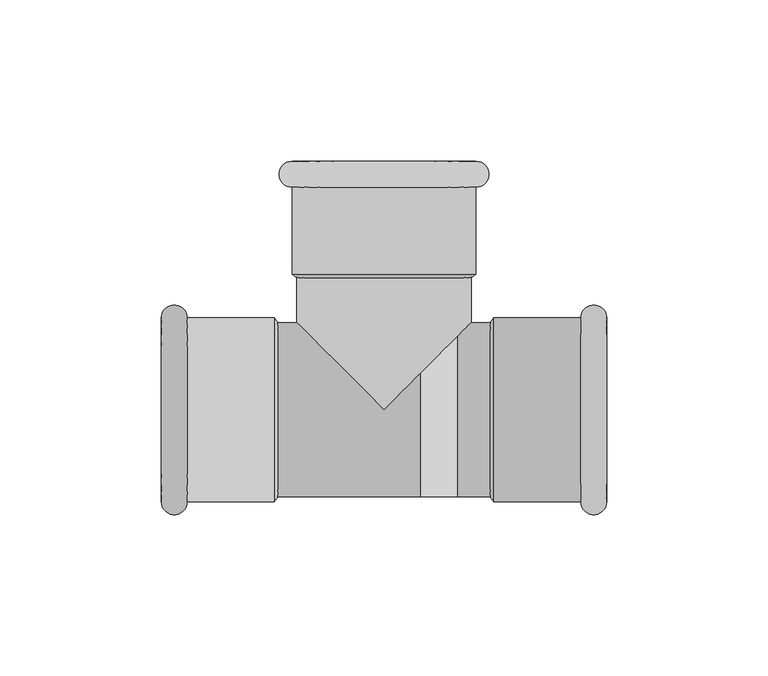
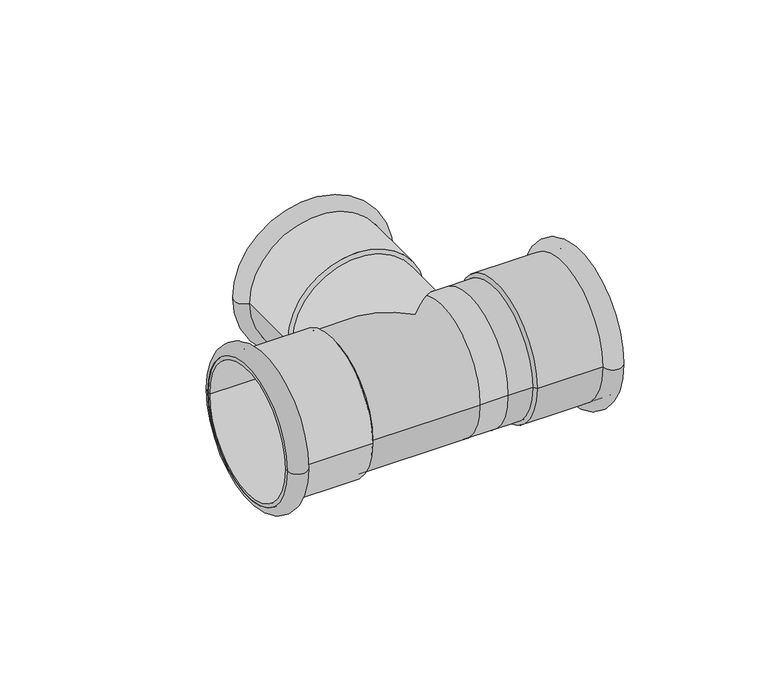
"""IFC4 building model written with IfcOpenShell, lengths in millimetres: pipe fitting geometry, NLRS_50_PIF_UN_Geberit Mapress Therm T-stuk : DN12-100 / d15-108 - OD."""

from ifc_helpers import new_model, si_unit, point, frame, origin, place, context, project, spatial, polyline, circle_curve, ellipse_curve, trimmed, source, transform, mapped, element, save
from ifc_brep_helpers import plane_surface, cylinder_surface, revolved_surface, advanced_brep


def pipe_fitting_14417a9a(model_context):
    return source(origin(), model_context, "Body", "AdvancedBrep", [
        advanced_brep(
        [(28.5, 77.0, 0.0), (-28.5, 77.0, 0.0), (-28.5, 69.0, 0.0), (28.5, 69.0, 0.0)],
        [
            (0, 1, circle_curve(frame((0.0, 77.0, 0.0), z_axis=(0.0, 1.0, 0.0), x_axis=(-1.0, 0.0, 0.0)), 28.5)),
            (1, 2),
            (2, 3, circle_curve(frame((0.0, 69.0, 0.0), z_axis=(0.0, -1.0, 0.0), x_axis=(-1.0, 0.0, 0.0)), 28.5)),
            (3, 0),
            (1, 0, circle_curve(frame((0.0, 77.0, 0.0), z_axis=(0.0, 1.0, 0.0), x_axis=(-1.0, 0.0, 0.0)), 28.5)),
            (3, 2, circle_curve(frame((0.0, 69.0, 0.0), z_axis=(0.0, -1.0, 0.0), x_axis=(-1.0, 0.0, 0.0)), 28.5)),
            (2, 1, circle_curve(frame((-28.5, 73.0, 0.0), z_axis=(0.0, 0.0, -1.0), x_axis=(0.0, 1.0, 0.0)), 4.0)),
            (0, 3, circle_curve(frame((28.5, 73.0, 0.0), z_axis=(0.0, 0.0, -1.0), x_axis=(0.0, 1.0, 0.0)), 4.0)),
        ],
        [
            revolved_surface(polyline([(-28.5, 69.0, 0.0), (-28.5, 77.0, 0.0)]), (0.0, 42.0, 0.0), (0.0, -1.0, 0.0)),
            revolved_surface(trimmed(ellipse_curve(frame((-28.5, 73.0, 0.0), z_axis=(0.0, 0.0, 1.0), x_axis=(0.0, 1.0, 0.0)), 4.0, 4.0), [point((-28.5, 77.0, 0.0))], [point((-28.5, 69.0, 0.0))], True, "CARTESIAN"), (0.0, 42.0, 0.0), (0.0, -1.0, 0.0)),
        ],
        [
            (0, [[1, 2, 3, 4]]),
            (0, [[5, -4, 6, -2]]),
            (1, [[-3, 7, -1, 8]]),
            (1, [[-6, -8, -5, -7]]),
        ],
    ),
        advanced_brep(
        [(27.0, 77.0, 0.0), (-27.0, 77.0, 0.0), (-27.0, 41.0, 0.0), (27.0, 41.0, 0.0), (28.5, 77.0, 0.0), (-28.5, 77.0, 0.0), (28.5, 42.0, 0.0), (-28.5, 42.0, 0.0)],
        [
            (0, 1, circle_curve(frame((0.0, 77.0, 0.0), z_axis=(0.0, 1.0, 0.0), x_axis=(-1.0, 0.0, 0.0)), 27.0)),
            (1, 2),
            (2, 3, circle_curve(frame((0.0, 41.0, 0.0), z_axis=(0.0, -1.0, 0.0), x_axis=(-1.0, 0.0, 0.0)), 27.0)),
            (3, 0),
            (1, 0, circle_curve(frame((0.0, 77.0, 0.0), z_axis=(0.0, 1.0, 0.0), x_axis=(-1.0, 0.0, 0.0)), 27.0)),
            (3, 2, circle_curve(frame((0.0, 41.0, 0.0), z_axis=(0.0, -1.0, 0.0), x_axis=(-1.0, 0.0, 0.0)), 27.0)),
            (4, 5, circle_curve(frame((0.0, 77.0, 0.0), z_axis=(0.0, 1.0, 0.0), x_axis=(-1.0, 0.0, 0.0)), 28.5)),
            (5, 1),
            (0, 4),
            (5, 4, circle_curve(frame((0.0, 77.0, 0.0), z_axis=(0.0, 1.0, 0.0), x_axis=(-1.0, 0.0, 0.0)), 28.5)),
            (6, 7, circle_curve(frame((0.0, 42.0, 0.0), z_axis=(0.0, 1.0, 0.0), x_axis=(-1.0, 0.0, 0.0)), 28.5)),
            (7, 5),
            (4, 6),
            (7, 6, circle_curve(frame((0.0, 42.0, 0.0), z_axis=(0.0, 1.0, 0.0), x_axis=(-1.0, 0.0, 0.0)), 28.5)),
            (2, 7),
            (6, 3),
        ],
        [
            revolved_surface(polyline([(-27.0, 41.0, 0.0), (-27.0, 77.0, 0.0)]), (0.0, 42.0, 0.0), (0.0, -1.0, 0.0)),
            plane_surface(frame((0.0, 77.0, 0.0), z_axis=(0.0, 1.0, 0.0), x_axis=(-1.0, 0.0, 0.0))),
            cylinder_surface(frame((0.0, 42.0, 0.0), z_axis=(0.0, -1.0, 0.0), x_axis=(-1.0, 0.0, 0.0)), 28.5),
            revolved_surface(polyline([(-28.5, 42.0, 0.0), (-27.0, 41.0, 0.0)]), (0.0, 42.0, 0.0), (0.0, -1.0, 0.0)),
        ],
        [
            (0, [[1, 2, 3, 4]]),
            (0, [[5, -4, 6, -2]]),
            (1, [[7, 8, -1, 9]]),
            (1, [[10, -9, -5, -8]]),
            (2, [[11, 12, -7, 13]]),
            (2, [[14, -13, -10, -12]]),
            (3, [[-3, 15, -11, 16]]),
            (3, [[-6, -16, -14, -15]]),
        ],
    ),
        advanced_brep(
        [(69.0, -28.5, 0.0), (69.0, 28.5, 0.0), (61.0, 28.5, 0.0), (61.0, -28.5, 0.0)],
        [
            (0, 1, circle_curve(frame((69.0, 0.0, 0.0), z_axis=(1.0, 0.0, 0.0), x_axis=(0.0, 1.0, 0.0)), 28.5)),
            (1, 2),
            (2, 3, circle_curve(frame((61.0, 0.0, 0.0), z_axis=(-1.0, 0.0, 0.0), x_axis=(0.0, 1.0, 0.0)), 28.5)),
            (3, 0),
            (1, 0, circle_curve(frame((69.0, 0.0, 0.0), z_axis=(1.0, 0.0, 0.0), x_axis=(0.0, 1.0, 0.0)), 28.5)),
            (3, 2, circle_curve(frame((61.0, 0.0, 0.0), z_axis=(-1.0, 0.0, 0.0), x_axis=(0.0, 1.0, 0.0)), 28.5)),
            (2, 1, circle_curve(frame((65.0, 28.5, 0.0), z_axis=(0.0, 0.0, -1.0), x_axis=(1.0, 0.0, 0.0)), 4.0)),
            (0, 3, circle_curve(frame((65.0, -28.5, 0.0), z_axis=(0.0, 0.0, -1.0), x_axis=(1.0, 0.0, 0.0)), 4.0)),
        ],
        [
            revolved_surface(polyline([(61.0, 28.5, 0.0), (69.0, 28.5, 0.0)]), (34.0, 0.0, 0.0), (-1.0, 0.0, 0.0)),
            revolved_surface(trimmed(ellipse_curve(frame((65.0, 28.5, 0.0), z_axis=(0.0, 0.0, 1.0), x_axis=(1.0, 0.0, 0.0)), 4.0, 4.0), [point((69.0, 28.5, 0.0))], [point((61.0, 28.5, 0.0))], True, "CARTESIAN"), (34.0, 0.0, 0.0), (-1.0, 0.0, 0.0)),
        ],
        [
            (0, [[1, 2, 3, 4]]),
            (0, [[5, -4, 6, -2]]),
            (1, [[-3, 7, -1, 8]]),
            (1, [[-6, -8, -5, -7]]),
        ],
    ),
        advanced_brep(
        [(69.0, -27.0, 0.0), (69.0, 27.0, 0.0), (33.0, 27.0, 0.0), (33.0, -27.0, 0.0), (69.0, -28.5, 0.0), (69.0, 28.5, 0.0), (34.0, -28.5, 0.0), (34.0, 28.5, 0.0)],
        [
            (0, 1, circle_curve(frame((69.0, 0.0, 0.0), z_axis=(1.0, 0.0, 0.0), x_axis=(0.0, 1.0, 0.0)), 27.0)),
            (1, 2),
            (2, 3, circle_curve(frame((33.0, 0.0, 0.0), z_axis=(-1.0, 0.0, 0.0), x_axis=(0.0, 1.0, 0.0)), 27.0)),
            (3, 0),
            (1, 0, circle_curve(frame((69.0, 0.0, 0.0), z_axis=(1.0, 0.0, 0.0), x_axis=(0.0, 1.0, 0.0)), 27.0)),
            (3, 2, circle_curve(frame((33.0, 0.0, 0.0), z_axis=(-1.0, 0.0, 0.0), x_axis=(0.0, 1.0, 0.0)), 27.0)),
            (4, 5, circle_curve(frame((69.0, 0.0, 0.0), z_axis=(1.0, 0.0, 0.0), x_axis=(0.0, 1.0, 0.0)), 28.5)),
            (5, 1),
            (0, 4),
            (5, 4, circle_curve(frame((69.0, 0.0, 0.0), z_axis=(1.0, 0.0, 0.0), x_axis=(0.0, 1.0, 0.0)), 28.5)),
            (6, 7, circle_curve(frame((34.0, 0.0, 0.0), z_axis=(1.0, 0.0, 0.0), x_axis=(0.0, 1.0, 0.0)), 28.5)),
            (7, 5),
            (4, 6),
            (7, 6, circle_curve(frame((34.0, 0.0, 0.0), z_axis=(1.0, 0.0, 0.0), x_axis=(0.0, 1.0, 0.0)), 28.5)),
            (2, 7),
            (6, 3),
        ],
        [
            revolved_surface(polyline([(33.0, 27.0, 0.0), (69.0, 27.0, 0.0)]), (34.0, 0.0, 0.0), (-1.0, 0.0, 0.0)),
            plane_surface(frame((69.0, 0.0, 0.0), z_axis=(1.0, 0.0, 0.0), x_axis=(0.0, 1.0, 0.0))),
            cylinder_surface(frame((34.0, 0.0, 0.0), z_axis=(-1.0, 0.0, 0.0), x_axis=(0.0, 1.0, 0.0)), 28.5),
            revolved_surface(polyline([(34.0, 28.5, 0.0), (33.0, 27.0, 0.0)]), (34.0, 0.0, 0.0), (-1.0, 0.0, 0.0)),
        ],
        [
            (0, [[1, 2, 3, 4]]),
            (0, [[5, -4, 6, -2]]),
            (1, [[7, 8, -1, 9]]),
            (1, [[10, -9, -5, -8]]),
            (2, [[11, 12, -7, 13]]),
            (2, [[14, -13, -10, -12]]),
            (3, [[-3, 15, -11, 16]]),
            (3, [[-6, -16, -14, -15]]),
        ],
    ),
        advanced_brep(
        [(-69.0, 28.5, 0.0), (-69.0, -28.5, 0.0), (-61.0, -28.5, 0.0), (-61.0, 28.5, 0.0)],
        [
            (0, 1, circle_curve(frame((-69.0, 0.0, 0.0), z_axis=(-1.0, 0.0, 0.0), x_axis=(0.0, -1.0, 0.0)), 28.5)),
            (1, 2),
            (2, 3, circle_curve(frame((-61.0, 0.0, 0.0), z_axis=(1.0, 0.0, 0.0), x_axis=(0.0, -1.0, 0.0)), 28.5)),
            (3, 0),
            (1, 0, circle_curve(frame((-69.0, 0.0, 0.0), z_axis=(-1.0, 0.0, 0.0), x_axis=(0.0, -1.0, 0.0)), 28.5)),
            (3, 2, circle_curve(frame((-61.0, 0.0, 0.0), z_axis=(1.0, 0.0, 0.0), x_axis=(0.0, -1.0, 0.0)), 28.5)),
            (2, 1, circle_curve(frame((-65.0, -28.5, 0.0), z_axis=(0.0, 0.0, -1.0), x_axis=(-1.0, 0.0, 0.0)), 4.0)),
            (0, 3, circle_curve(frame((-65.0, 28.5, 0.0), z_axis=(0.0, 0.0, -1.0), x_axis=(-1.0, 0.0, 0.0)), 4.0)),
        ],
        [
            revolved_surface(polyline([(-61.0, -28.5, 0.0), (-69.0, -28.5, 0.0)]), (-34.0, 0.0, 0.0), (1.0, 0.0, 0.0)),
            revolved_surface(trimmed(ellipse_curve(frame((-65.0, -28.5, 0.0), z_axis=(0.0, 0.0, 1.0), x_axis=(-1.0, 0.0, 0.0)), 4.0, 4.0), [point((-69.0, -28.5, 0.0))], [point((-61.0, -28.5, 0.0))], True, "CARTESIAN"), (-34.0, 0.0, 0.0), (1.0, 0.0, 0.0)),
        ],
        [
            (0, [[1, 2, 3, 4]]),
            (0, [[5, -4, 6, -2]]),
            (1, [[-3, 7, -1, 8]]),
            (1, [[-6, -8, -5, -7]]),
        ],
    ),
        advanced_brep(
        [(-69.0, 27.0, 0.0), (-69.0, -27.0, 0.0), (-33.0, -27.0, 0.0), (-33.0, 27.0, 0.0), (-69.0, 28.5, 0.0), (-69.0, -28.5, 0.0), (-34.0, 28.5, 0.0), (-34.0, -28.5, 0.0)],
        [
            (0, 1, circle_curve(frame((-69.0, 0.0, 0.0), z_axis=(-1.0, 0.0, 0.0), x_axis=(0.0, -1.0, 0.0)), 27.0)),
            (1, 2),
            (2, 3, circle_curve(frame((-33.0, 0.0, 0.0), z_axis=(1.0, 0.0, 0.0), x_axis=(0.0, -1.0, 0.0)), 27.0)),
            (3, 0),
            (1, 0, circle_curve(frame((-69.0, 0.0, 0.0), z_axis=(-1.0, 0.0, 0.0), x_axis=(0.0, -1.0, 0.0)), 27.0)),
            (3, 2, circle_curve(frame((-33.0, 0.0, 0.0), z_axis=(1.0, 0.0, 0.0), x_axis=(0.0, -1.0, 0.0)), 27.0)),
            (4, 5, circle_curve(frame((-69.0, 0.0, 0.0), z_axis=(-1.0, 0.0, 0.0), x_axis=(0.0, -1.0, 0.0)), 28.5)),
            (5, 1),
            (0, 4),
            (5, 4, circle_curve(frame((-69.0, 0.0, 0.0), z_axis=(-1.0, 0.0, 0.0), x_axis=(0.0, -1.0, 0.0)), 28.5)),
            (6, 7, circle_curve(frame((-34.0, 0.0, 0.0), z_axis=(-1.0, 0.0, 0.0), x_axis=(0.0, -1.0, 0.0)), 28.5)),
            (7, 5),
            (4, 6),
            (7, 6, circle_curve(frame((-34.0, 0.0, 0.0), z_axis=(-1.0, 0.0, 0.0), x_axis=(0.0, -1.0, 0.0)), 28.5)),
            (2, 7),
            (6, 3),
        ],
        [
            revolved_surface(polyline([(-33.0, -27.0, 0.0), (-69.0, -27.0, 0.0)]), (-34.0, 0.0, 0.0), (1.0, 0.0, 0.0)),
            plane_surface(frame((-69.0, 0.0, 0.0), z_axis=(-1.0, 0.0, 0.0), x_axis=(0.0, -1.0, 0.0))),
            cylinder_surface(frame((-34.0, 0.0, 0.0), z_axis=(1.0, 0.0, 0.0), x_axis=(0.0, -1.0, 0.0)), 28.5),
            revolved_surface(polyline([(-34.0, -28.5, 0.0), (-33.0, -27.0, 0.0)]), (-34.0, 0.0, 0.0), (1.0, 0.0, 0.0)),
        ],
        [
            (0, [[1, 2, 3, 4]]),
            (0, [[5, -4, 6, -2]]),
            (1, [[7, 8, -1, 9]]),
            (1, [[10, -9, -5, -8]]),
            (2, [[11, 12, -7, 13]]),
            (2, [[14, -13, -10, -12]]),
            (3, [[-3, 15, -11, 16]]),
            (3, [[-6, -16, -14, -15]]),
        ],
    ),
        advanced_brep(
        [(22.6666667, -27.0, 0.0), (11.3333333, -27.0, 0.0), (11.3333333, 11.3333333, -24.506235), (22.6666667, 22.6666667, -14.6704541), (22.6666667, 22.6666667, 14.6704541), (11.3333333, 11.3333333, 24.506235), (34.0, -27.0, 0.0), (34.0, 27.0, 0.0), (27.0, 27.0, 0.0), (-34.0, -27.0, 0.0), (-34.0, 27.0, 0.0), (0.0, 0.0, 27.0), (-27.0, 27.0, 0.0), (0.0, 0.0, -27.0), (27.0, 42.0, 0.0), (-27.0, 42.0, 0.0)],
        [
            (0, 1),
            (1, 2, circle_curve(frame((11.3333333, 0.0, 0.0), z_axis=(1.0, 0.0, 0.0), x_axis=(0.0, 0.0, -1.0)), 27.0)),
            (2, 3, ellipse_curve(frame((0.0, 0.0, 0.0), z_axis=(0.7071067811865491, -0.707106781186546, 0.0), x_axis=(0.7071067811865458, 0.7071067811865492, 0.0)), 38.1837662, 27.0)),
            (3, 0, circle_curve(frame((22.6666667, 0.0, 0.0), z_axis=(-1.0, 0.0, 0.0), x_axis=(0.0, 0.0, -1.0)), 27.0)),
            (0, 4, circle_curve(frame((22.6666667, 0.0, 0.0), z_axis=(-1.0, 0.0, 0.0), x_axis=(0.0, 0.0, 1.0)), 27.0)),
            (4, 5, ellipse_curve(frame((0.0, 0.0, 0.0), z_axis=(0.7071067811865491, -0.707106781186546, 0.0), x_axis=(0.7071067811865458, 0.7071067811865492, 0.0)), 38.1837662, 27.0)),
            (5, 1, circle_curve(frame((11.3333333, 0.0, 0.0), z_axis=(1.0, 0.0, 0.0), x_axis=(0.0, 0.0, 1.0)), 27.0)),
            (6, 7, circle_curve(frame((34.0, 0.0, 0.0), z_axis=(1.0, 0.0, 0.0), x_axis=(0.0, 1.0, 0.0)), 27.0)),
            (7, 6, circle_curve(frame((34.0, 0.0, 0.0), z_axis=(1.0, 0.0, 0.0), x_axis=(0.0, 1.0, 0.0)), 27.0)),
            (7, 8),
            (8, 4, ellipse_curve(frame((0.0, 0.0, 0.0), z_axis=(0.7071067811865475, -0.7071067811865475, 0.0), x_axis=(-0.7071067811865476, -0.7071067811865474, 0.0)), 38.1837662, 27.0)),
            (0, 6),
            (3, 8, ellipse_curve(frame((0.0, 0.0, 0.0), z_axis=(0.7071067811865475, -0.7071067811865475, 0.0), x_axis=(-0.7071067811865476, -0.7071067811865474, 0.0)), 38.1837662, 27.0)),
            (9, 10, circle_curve(frame((-34.0, 0.0, 0.0), z_axis=(-1.0, 0.0, 0.0), x_axis=(0.0, 1.0, 0.0)), 27.0)),
            (10, 9, circle_curve(frame((-34.0, 0.0, 0.0), z_axis=(-1.0, 0.0, 0.0), x_axis=(0.0, 1.0, 0.0)), 27.0)),
            (9, 1),
            (5, 11, ellipse_curve(frame((0.0, 0.0, 0.0), z_axis=(0.7071067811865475, -0.7071067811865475, 0.0), x_axis=(-0.7071067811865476, -0.7071067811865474, 0.0)), 38.1837662, 27.0)),
            (11, 12, ellipse_curve(frame((0.0, 0.0, 0.0), z_axis=(-0.7071067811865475, -0.7071067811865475, 0.0), x_axis=(-0.7071067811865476, 0.7071067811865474, 0.0)), 38.1837662, 27.0)),
            (12, 10),
            (12, 13, ellipse_curve(frame((0.0, 0.0, 0.0), z_axis=(-0.7071067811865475, -0.7071067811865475, 0.0), x_axis=(-0.7071067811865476, 0.7071067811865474, 0.0)), 38.1837662, 27.0)),
            (13, 2, ellipse_curve(frame((0.0, 0.0, 0.0), z_axis=(0.7071067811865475, -0.7071067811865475, 0.0), x_axis=(-0.7071067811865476, -0.7071067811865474, 0.0)), 38.1837662, 27.0)),
            (14, 15, circle_curve(frame((0.0, 42.0, 0.0), z_axis=(0.0, 1.0, 0.0), x_axis=(-1.0, 0.0, 0.0)), 27.0)),
            (15, 14, circle_curve(frame((0.0, 42.0, 0.0), z_axis=(0.0, 1.0, 0.0), x_axis=(-1.0, 0.0, 0.0)), 27.0)),
            (15, 12),
            (8, 14),
        ],
        [
            cylinder_surface(frame((11.3333333, 0.0, 0.0), z_axis=(1.0, 0.0, 0.0), x_axis=(0.0, 0.0, -1.0)), 27.0),
            cylinder_surface(frame((11.3333333, 0.0, 0.0), z_axis=(1.0, 0.0, 0.0), x_axis=(0.0, 0.0, 1.0)), 27.0),
            plane_surface(frame((34.0, 0.0, 0.0), z_axis=(1.0, 0.0, 0.0), x_axis=(0.0, 0.0, 1.0))),
            cylinder_surface(frame((22.6666667, 0.0, 0.0), z_axis=(-1.0, 0.0, 0.0), x_axis=(0.0, 1.0, 0.0)), 27.0),
            plane_surface(frame((-34.0, 0.0, 0.0), z_axis=(-1.0, 0.0, 0.0), x_axis=(0.0, 0.0, 1.0))),
            cylinder_surface(frame((-34.0, 0.0, 0.0), z_axis=(-1.0, 0.0, 0.0), x_axis=(0.0, 1.0, 0.0)), 27.0),
            plane_surface(frame((0.0, 42.0, 0.0), z_axis=(0.0, 1.0, 0.0), x_axis=(0.0, 0.0, 1.0))),
            cylinder_surface(frame((0.0, 0.0, 0.0), z_axis=(0.0, -1.0, 0.0), x_axis=(-1.0, 0.0, 0.0)), 27.0),
        ],
        [
            (0, [[1, 2, 3, 4]]),
            (1, [[-1, 5, 6, 7]]),
            (2, [[8, 9]]),
            (3, [[-9, 10, 11, -5, 12]]),
            (3, [[-8, -12, -4, 13, -10]]),
            (4, [[14, 15]]),
            (5, [[-14, 16, -7, 17, 18, 19]]),
            (5, [[-15, -19, 20, 21, -2, -16]]),
            (6, [[22, 23]]),
            (7, [[-23, 24, -18, -17, -6, -11, 25]]),
            (7, [[-22, -25, -13, -3, -21, -20, -24]]),
        ],
    ),
    ])


if __name__ == "__main__":
    model = new_model("IFC4")
    model_context = context("Model", 3, world=origin())
    ifc_project = project(units=[si_unit("LENGTHUNIT", "METRE", prefix="MILLI")], contexts=[model_context])
    site = spatial("IfcSite", under=ifc_project)
    building = spatial("IfcBuilding", under=site)
    placement = place(None, origin())
    pipe_fitting_shape = pipe_fitting_14417a9a(model_context)
    element("IfcPipeFitting", 1, ObjectType="NLRS_50_PIF_UN_Geberit Mapress Therm T-stuk : DN12-100 / d15-108 - OD", at=placement, inside=building, context=model_context, shape_type="MappedRepresentation", body=[
        mapped(pipe_fitting_shape, transform((0.0, 0.0, 0.0), x_axis=(1.0, 0.0, 0.0), y_axis=(0.0, 1.0, 0.0), z_axis=(0.0, 0.0, 1.0))),
    ])
    save(model, "model.ifc")
